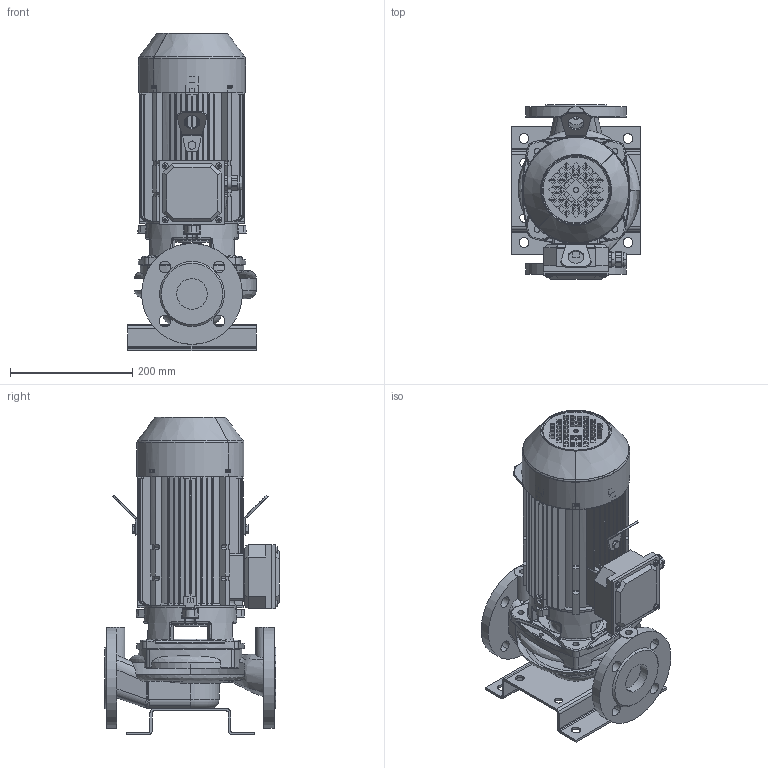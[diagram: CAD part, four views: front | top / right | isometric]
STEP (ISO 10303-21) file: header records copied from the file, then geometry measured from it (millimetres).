
FILE_DESCRIPTION(('STEP AP214'),'1');
FILE_NAME('export.stp','2018-05-29T06:23:51',(' '),(' '),'Spatial InterOp 3D',' ',' ');
FILE_SCHEMA(('AUTOMOTIVE_DESIGN { 1 0 10303 214 1 1 1 1 }'));
Length unit declared in the file: millimetre
Products named in the file (27): W_L50D2220_KP90; V_TLL50ABC; V_PPL50ABC; V_JALKA35973; M5x8_DIN; DIN_7985-M5X8; 160141; M5x12_DIN; DIN_7985-M5X12; 160137; 160138; 160139; 160140; Koura_Ale_M5; Plug_Blind_M20; Sealing_Plug_M20; V_MKP90-1-F16; 160033; 160008; 160048___; 160068___; 160135; 160134; DIN_EN_24017_-_M8_16-Stainless_S
Assembly tree (31 placements, depth 5):
  W_L50D2220_KP90
    V_TLL50ABC
    V_PPL50ABC
    V_JALKA35973
    V_MKP90-1-F16
      160141
        M5x8_DIN
          DIN_7985-M5X8
        M5x12_DIN
          DIN_7985-M5X12
        M5x12_DIN
          DIN_7985-M5X12
        M5x12_DIN
          DIN_7985-M5X12
        M5x12_DIN
          DIN_7985-M5X12
        160137
        160138
        160139
        160140
        Koura_Ale_M5
        Plug_Blind_M20
        Sealing_Plug_M20
      160033
        160008
      160048___
      160068___
      160135
      160134  x2
      DIN_EN_24017_-_M8_16-Stainless_S  x2
Bounding box: 210 x 285.5 x 519.45 mm (x, y, z)
Volume: 2136009.5 mm3; surface area: 1298662 mm2
Topology: 23 solids, 24 shells, 2599 faces, 6888 edges, 4350 vertices
Faces by surface type: plane 1071, cylinder 774, torus 302, bspline 269, cone 167, sphere 16
Entity records: 96846 total; most frequent: CARTESIAN_POINT 33587, ORIENTED_EDGE 13097, DIRECTION 12171, EDGE_CURVE 6564, AXIS2_PLACEMENT_3D 4636, VERTEX_POINT 4172, LINE 2899, VECTOR 2899
